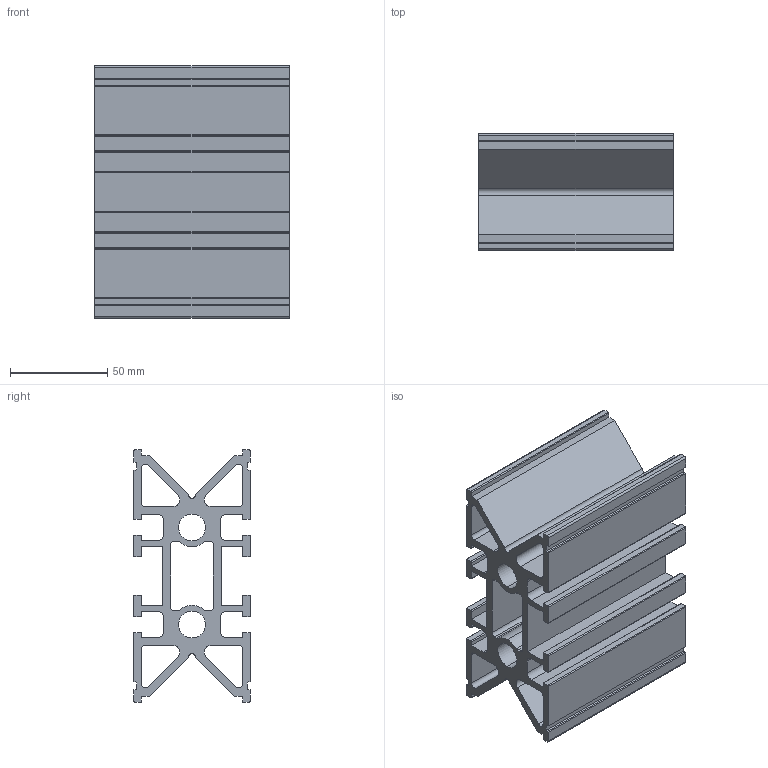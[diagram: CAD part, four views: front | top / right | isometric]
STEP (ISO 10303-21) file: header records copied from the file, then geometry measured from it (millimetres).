
FILE_DESCRIPTION (( 'STEP AP214' ), '1' );
FILE_NAME ('084.530.002.STEP', '2020-07-23T08:39:30', ( '' ), ( '' ), 'SwSTEP 2.0', 'SolidWorks 2018', '' );
FILE_SCHEMA (( 'AUTOMOTIVE_DESIGN' ));
Length unit declared in the file: millimetre
Products named in the file (1): 084.530.002
Bounding box: 100 x 60 x 130 mm (x, y, z)
Volume: 276866 mm3; surface area: 122419.2 mm2
Topology: 1 solids, 1 shells, 182 faces, 540 edges, 360 vertices
Faces by surface type: plane 102, cylinder 80
Entity records: 6186 total; most frequent: CARTESIAN_POINT 1083, ORIENTED_EDGE 1080, DIRECTION 1066, EDGE_CURVE 540, LINE 380, VECTOR 380, VERTEX_POINT 360, AXIS2_PLACEMENT_3D 343
